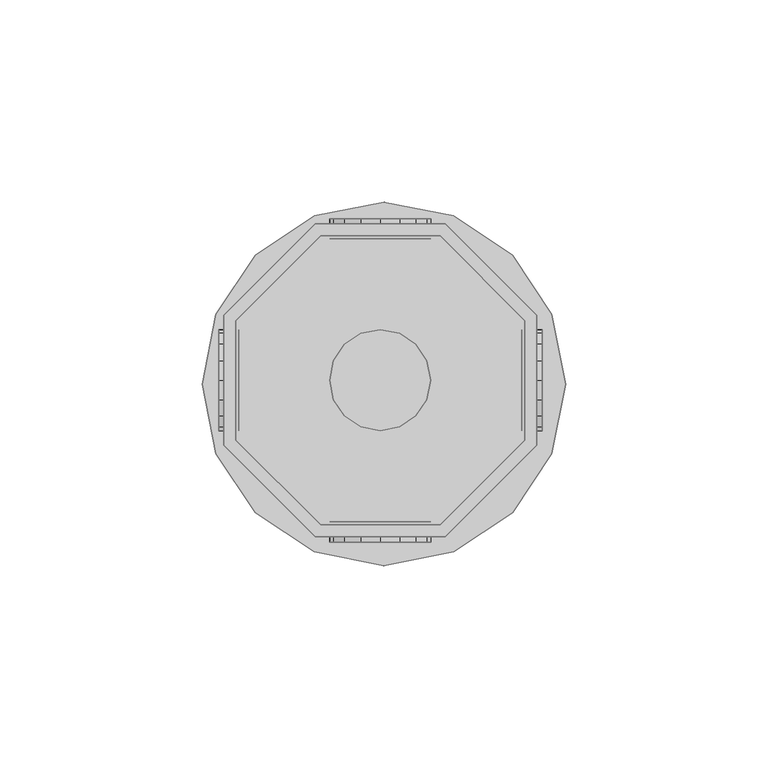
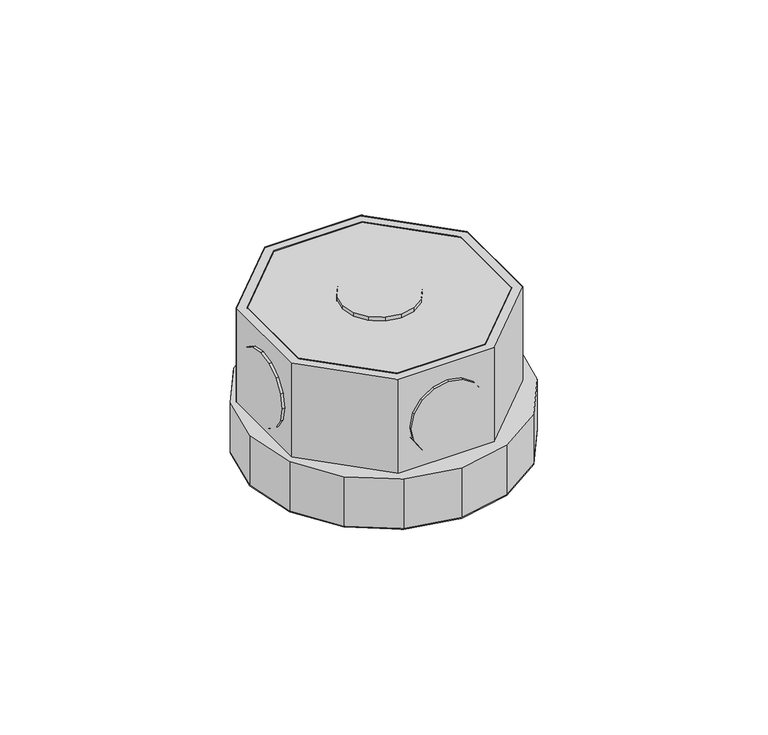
"""IFC4 building model written with IfcOpenShell, lengths in millimetres: light fixture geometry,  213642 :  213642."""

from ifc_helpers import new_model, si_unit, origin, place, context, project, spatial, triangles, source, transform, mapped, element, save


def light_fixture_ebff3914(model_context):
    return source(origin(), model_context, "Body", "Tessellation", [
        triangles([(5265.0001419, 19132.999585, 2924.5999741), (5235.4002045, 19132.999585, 2975.400071), (5235.4002045, 19132.999585, 2924.5999741), (5265.0001419, 19132.999585, 2975.400071), (5266.2000687, 19058.4994812, 2924.5999741), (5234.1002838, 19058.4994812, 2975.400071), (5234.1002838, 19058.4994812, 2924.5999741), (5266.2000687, 19058.4994812, 2975.400071), (5214.3997421, 19111.999704, 2975.400071), (5214.3997421, 19111.999704, 2924.5999741), (5288.8998459, 19081.2004211, 2924.5999741), (5288.8998459, 19081.2004211, 2975.400071), (5214.3997421, 19082.4003479, 2975.400071), (5214.3997421, 19082.4003479, 2924.5999741), (5288.8998459, 19113.2996246, 2924.5999741), (5288.8998459, 19113.2996246, 2975.400071), (5235.4002045, 19061.5004608, 2975.400071), (5235.4002045, 19061.5004608, 2924.5999741), (5266.2000687, 19136.0005646, 2924.5999741), (5266.2000687, 19136.0005646, 2975.400071), (5265.0001419, 19061.5004608, 2924.5999741), (5265.0001419, 19061.5004608, 2975.400071), (5234.1002838, 19136.0005646, 2975.400071), (5234.1002838, 19136.0005646, 2924.5999741), (5285.900029, 19082.4003479, 2924.5999741), (5285.900029, 19082.4003479, 2975.400071), (5211.3999252, 19113.2996246, 2975.400071), (5211.3999252, 19113.2996246, 2924.5999741), (5211.3999252, 19081.2004211, 2975.400071), (5285.900029, 19111.999704, 2975.400071), (5285.900029, 19111.999704, 2924.5999741), (5211.3999252, 19081.2004211, 2924.5999741), (5214.3997421, 19082.4003479, 2972.3999634), (5235.4002045, 19061.5004608, 2972.3999634), (5265.0001419, 19061.5004608, 2972.3999634), (5285.900029, 19082.4003479, 2972.3999634), (5285.900029, 19111.999704, 2972.3999634), (5265.0001419, 19132.999585, 2972.3999634), (5235.4002045, 19132.999585, 2972.3999634), (5214.3997421, 19111.999704, 2972.3999634), (5211.3999252, 19113.2996246, 2942.4000504), (5234.1002838, 19136.0005646, 2942.4000504), (5266.2000687, 19136.0005646, 2942.4000504), (5288.8998459, 19113.2996246, 2942.4000504), (5288.8998459, 19081.2004211, 2942.4000504), (5266.2000687, 19058.4994812, 2942.4000504), (5234.1002838, 19058.4994812, 2942.4000504), (5211.3999252, 19081.2004211, 2942.4000504), (5233.7997208, 19054.799707, 2942.4000504), (5209.5000412, 19079.1005493, 2942.4000504), (5219.2000305, 19064.5002777, 2942.4000504), (5206.1002487, 19096.2994995, 2942.4000504), (5209.5000412, 19113.5996063, 2942.4000504), (5219.2000305, 19128.1998779, 2942.4000504), (5233.7997208, 19137.9004486, 2942.4000504), (5251.0998276, 19141.3002411, 2942.4000504), (5268.2999405, 19137.9004486, 2942.4000504), (5292.6002014, 19113.5996063, 2942.4000504), (5282.9002121, 19128.1998779, 2942.4000504), (5251.0998276, 19051.2999207, 2942.4000504), (5268.2999405, 19054.799707, 2942.4000504), (5282.9002121, 19064.5002777, 2942.4000504), (5292.6002014, 19079.1005493, 2942.4000504), (5296.0999878, 19096.2994995, 2942.4000504), (5209.5000412, 19079.1005493, 2924.5999741), (5233.7997208, 19054.799707, 2924.5999741), (5219.2000305, 19064.5002777, 2924.5999741), (5206.1002487, 19096.2994995, 2924.5999741), (5209.5000412, 19113.5996063, 2924.5999741), (5219.2000305, 19128.1998779, 2924.5999741), (5233.7997208, 19137.9004486, 2924.5999741), (5251.0998276, 19141.3002411, 2924.5999741), (5268.2999405, 19137.9004486, 2924.5999741), (5292.6002014, 19113.5996063, 2924.5999741), (5282.9002121, 19128.1998779, 2924.5999741), (5251.0998276, 19051.2999207, 2924.5999741), (5268.2999405, 19054.799707, 2924.5999741), (5282.9002121, 19064.5002777, 2924.5999741), (5292.6002014, 19079.1005493, 2924.5999741), (5296.0999878, 19096.2994995, 2924.5999741), (5238.6000092, 19137.2004913, 2952.6000092), (5245.4001755, 19137.2004913, 2945.9001274), (5241.2998444, 19137.2004913, 2948.5999626), (5237.7000641, 19137.2004913, 2957.4000069), (5250.1998825, 19137.2004913, 2944.8998978), (5238.6000092, 19137.2004913, 2962.2000046), (5255.0001709, 19137.2004913, 2945.9001274), (5241.2998444, 19137.2004913, 2966.2000511), (5258.9999268, 19137.2004913, 2948.5999626), (5245.4001755, 19137.2004913, 2968.8998863), (5261.699762, 19137.2004913, 2952.6000092), (5250.1998825, 19137.2004913, 2969.900116), (5262.7002823, 19137.2004913, 2957.4000069), (5255.0001709, 19137.2004913, 2968.8998863), (5261.699762, 19137.2004913, 2962.2000046), (5258.9999268, 19137.2004913, 2966.2000511), (5245.4001755, 19132.1996338, 2945.9001274), (5238.6000092, 19132.1996338, 2952.6000092), (5241.2998444, 19132.1996338, 2948.5999626), (5250.1998825, 19132.1996338, 2944.8998978), (5237.7000641, 19132.1996338, 2957.4000069), (5255.0001709, 19132.1996338, 2945.9001274), (5238.6000092, 19132.1996338, 2962.2000046), (5258.9999268, 19132.1996338, 2948.5999626), (5241.2998444, 19132.1996338, 2966.2000511), (5245.4001755, 19132.1996338, 2968.8998863), (5261.699762, 19132.1996338, 2952.6000092), (5250.1998825, 19132.1996338, 2969.900116), (5262.7002823, 19132.1996338, 2957.4000069), (5255.0001709, 19132.1996338, 2968.8998863), (5261.699762, 19132.1996338, 2962.2000046), (5258.9999268, 19132.1996338, 2966.2000511), (5238.6000092, 19062.2004181, 2952.6000092), (5245.4001755, 19062.2004181, 2945.9001274), (5241.2998444, 19062.2004181, 2948.5999626), (5237.7000641, 19062.2004181, 2957.4000069), (5250.1998825, 19062.2004181, 2944.8998978), (5238.6000092, 19062.2004181, 2962.2000046), (5255.0001709, 19062.2004181, 2945.9001274), (5241.2998444, 19062.2004181, 2966.2000511), (5258.9999268, 19062.2004181, 2948.5999626), (5245.4001755, 19062.2004181, 2968.8998863), (5261.699762, 19062.2004181, 2952.6000092), (5250.1998825, 19062.2004181, 2969.900116), (5262.7002823, 19062.2004181, 2957.4000069), (5255.0001709, 19062.2004181, 2968.8998863), (5261.699762, 19062.2004181, 2962.2000046), (5258.9999268, 19062.2004181, 2966.2000511), (5245.4001755, 19057.1995605, 2945.9001274), (5238.6000092, 19057.1995605, 2952.6000092), (5241.2998444, 19057.1995605, 2948.5999626), (5250.1998825, 19057.1995605, 2944.8998978), (5237.7000641, 19057.1995605, 2957.4000069), (5255.0001709, 19057.1995605, 2945.9001274), (5238.6000092, 19057.1995605, 2962.2000046), (5258.9999268, 19057.1995605, 2948.5999626), (5241.2998444, 19057.1995605, 2966.2000511), (5245.4001755, 19057.1995605, 2968.8998863), (5261.699762, 19057.1995605, 2952.6000092), (5250.1998825, 19057.1995605, 2969.900116), (5262.7002823, 19057.1995605, 2957.4000069), (5255.0001709, 19057.1995605, 2968.8998863), (5261.699762, 19057.1995605, 2962.2000046), (5258.9999268, 19057.1995605, 2966.2000511), (5215.2002747, 19092.3997375, 2945.9001274), (5215.2002747, 19085.7001465, 2952.6000092), (5215.2002747, 19088.3999817, 2948.5999626), (5215.2002747, 19097.1994446, 2944.8998978), (5215.2002747, 19084.7002075, 2957.4000069), (5215.2002747, 19102.0003143, 2945.9001274), (5215.2002747, 19085.7001465, 2962.2000046), (5215.2002747, 19106.1000641, 2948.5999626), (5215.2002747, 19088.3999817, 2966.2000511), (5215.2002747, 19092.3997375, 2968.8998863), (5215.2002747, 19108.7998993, 2952.6000092), (5215.2002747, 19097.1994446, 2969.900116), (5215.2002747, 19109.6998444, 2957.4000069), (5215.2002747, 19102.0003143, 2968.8998863), (5215.2002747, 19108.7998993, 2962.2000046), (5215.2002747, 19106.1000641, 2966.2000511), (5210.1999985, 19085.7001465, 2952.6000092), (5210.1999985, 19092.3997375, 2945.9001274), (5210.1999985, 19088.3999817, 2948.5999626), (5210.1999985, 19084.7002075, 2957.4000069), (5210.1999985, 19097.1994446, 2944.8998978), (5210.1999985, 19085.7001465, 2962.2000046), (5210.1999985, 19102.0003143, 2945.9001274), (5210.1999985, 19088.3999817, 2966.2000511), (5210.1999985, 19106.1000641, 2948.5999626), (5210.1999985, 19092.3997375, 2968.8998863), (5210.1999985, 19108.7998993, 2952.6000092), (5210.1999985, 19097.1994446, 2969.900116), (5210.1999985, 19109.6998444, 2957.4000069), (5210.1999985, 19102.0003143, 2968.8998863), (5210.1999985, 19108.7998993, 2962.2000046), (5210.1999985, 19106.1000641, 2966.2000511), (5290.1997665, 19092.3997375, 2945.9001274), (5290.1997665, 19085.7001465, 2952.6000092), (5290.1997665, 19088.3999817, 2948.5999626), (5290.1997665, 19097.1994446, 2944.8998978), (5290.1997665, 19084.7002075, 2957.4000069), (5290.1997665, 19102.0003143, 2945.9001274), (5290.1997665, 19085.7001465, 2962.2000046), (5290.1997665, 19106.1000641, 2948.5999626), (5290.1997665, 19088.3999817, 2966.2000511), (5290.1997665, 19092.3997375, 2968.8998863), (5290.1997665, 19108.7998993, 2952.6000092), (5290.1997665, 19097.1994446, 2969.900116), (5290.1997665, 19109.6998444, 2957.4000069), (5290.1997665, 19102.0003143, 2968.8998863), (5290.1997665, 19108.7998993, 2962.2000046), (5290.1997665, 19106.1000641, 2966.2000511), (5285.2000717, 19085.7001465, 2952.6000092), (5285.2000717, 19092.3997375, 2945.9001274), (5285.2000717, 19088.3999817, 2948.5999626), (5285.2000717, 19084.7002075, 2957.4000069), (5285.2000717, 19097.1994446, 2944.8998978), (5285.2000717, 19085.7001465, 2962.2000046), (5285.2000717, 19102.0003143, 2945.9001274), (5285.2000717, 19088.3999817, 2966.2000511), (5285.2000717, 19106.1000641, 2948.5999626), (5285.2000717, 19092.3997375, 2968.8998863), (5285.2000717, 19108.7998993, 2952.6000092), (5285.2000717, 19097.1994446, 2969.900116), (5285.2000717, 19109.6998444, 2957.4000069), (5285.2000717, 19102.0003143, 2968.8998863), (5285.2000717, 19108.7998993, 2962.2000046), (5285.2000717, 19106.1000641, 2966.2000511), (5245.4001755, 19085.7001465, 2976.9999733), (5238.6000092, 19092.3997375, 2976.9999733), (5241.2998444, 19088.3999817, 2976.9999733), (5237.7000641, 19097.1994446, 2976.9999733), (5250.1998825, 19084.7002075, 2976.9999733), (5238.6000092, 19102.0003143, 2976.9999733), (5255.0001709, 19085.7001465, 2976.9999733), (5241.2998444, 19106.1000641, 2976.9999733), (5258.9999268, 19088.3999817, 2976.9999733), (5245.4001755, 19108.7998993, 2976.9999733), (5261.699762, 19092.3997375, 2976.9999733), (5250.1998825, 19109.6998444, 2976.9999733), (5262.7002823, 19097.1994446, 2976.9999733), (5255.0001709, 19108.7998993, 2976.9999733), (5261.699762, 19102.0003143, 2976.9999733), (5258.9999268, 19106.1000641, 2976.9999733), (5238.6000092, 19092.3997375, 2971.9999878), (5245.4001755, 19085.7001465, 2971.9999878), (5241.2998444, 19088.3999817, 2971.9999878), (5237.7000641, 19097.1994446, 2971.9999878), (5250.1998825, 19084.7002075, 2971.9999878), (5238.6000092, 19102.0003143, 2971.9999878), (5255.0001709, 19085.7001465, 2971.9999878), (5241.2998444, 19106.1000641, 2971.9999878), (5258.9999268, 19088.3999817, 2971.9999878), (5245.4001755, 19108.7998993, 2971.9999878), (5261.699762, 19092.3997375, 2971.9999878), (5250.1998825, 19109.6998444, 2971.9999878), (5262.7002823, 19097.1994446, 2971.9999878), (5255.0001709, 19108.7998993, 2971.9999878), (5261.699762, 19102.0003143, 2971.9999878), (5258.9999268, 19106.1000641, 2971.9999878)], [[1, 2, 3], [2, 1, 4], [5, 6, 7], [6, 5, 8], [3, 9, 10], [9, 3, 2], [11, 8, 5], [8, 11, 12], [10, 13, 14], [13, 10, 9], [15, 12, 11], [12, 15, 16], [14, 17, 18], [17, 14, 13], [19, 16, 15], [16, 19, 20], [17, 21, 18], [21, 17, 22], [23, 19, 24], [19, 23, 20], [22, 25, 21], [25, 22, 26], [27, 24, 28], [24, 27, 23], [6, 13, 29], [29, 13, 27], [27, 13, 9], [27, 9, 23], [23, 9, 2], [23, 2, 4], [23, 4, 20], [20, 4, 30], [8, 17, 6], [6, 17, 13], [17, 8, 22], [12, 22, 8], [22, 12, 26], [30, 26, 12], [16, 30, 12], [20, 30, 16], [30, 1, 31], [1, 30, 4], [6, 32, 7], [32, 6, 29], [32, 14, 7], [28, 14, 32], [14, 28, 10], [24, 10, 28], [10, 24, 3], [1, 3, 24], [19, 1, 24], [31, 1, 19], [7, 18, 5], [14, 18, 7], [5, 18, 21], [5, 21, 11], [11, 21, 25], [11, 25, 31], [11, 31, 15], [15, 31, 19], [26, 31, 25], [31, 26, 30], [29, 28, 32], [28, 29, 27], [17, 33, 34], [33, 17, 13], [35, 17, 34], [17, 35, 22], [36, 22, 35], [22, 36, 26], [37, 26, 36], [26, 37, 30], [38, 30, 37], [30, 38, 4], [2, 38, 39], [38, 2, 4], [17, 9, 13], [9, 17, 22], [9, 22, 2], [2, 22, 26], [2, 26, 4], [4, 26, 30], [13, 40, 33], [40, 13, 9], [40, 34, 33], [35, 34, 40], [35, 40, 39], [35, 39, 36], [36, 39, 38], [36, 38, 37], [9, 39, 40], [39, 9, 2], [24, 41, 28], [41, 24, 42], [19, 42, 24], [42, 19, 43], [44, 19, 15], [19, 44, 43], [45, 15, 11], [15, 45, 44], [46, 11, 5], [11, 46, 45], [47, 5, 7], [5, 47, 46], [32, 47, 7], [47, 32, 48], [28, 48, 32], [48, 28, 41], [49, 50, 51], [48, 50, 49], [50, 48, 52], [41, 52, 48], [52, 41, 53], [53, 41, 54], [42, 54, 41], [54, 42, 55], [55, 42, 43], [55, 43, 56], [56, 43, 57], [57, 43, 44], [57, 44, 58], [57, 58, 59], [47, 49, 60], [49, 47, 48], [47, 60, 46], [61, 46, 60], [46, 61, 62], [46, 62, 45], [45, 62, 63], [44, 45, 63], [44, 63, 64], [44, 64, 58], [65, 66, 67], [66, 65, 32], [68, 32, 65], [32, 68, 28], [28, 68, 69], [70, 28, 69], [28, 70, 24], [71, 24, 70], [19, 24, 71], [19, 71, 72], [73, 19, 72], [19, 73, 15], [74, 15, 73], [74, 73, 75], [76, 66, 7], [32, 7, 66], [5, 76, 7], [76, 5, 77], [77, 5, 78], [11, 78, 5], [78, 11, 79], [79, 11, 15], [79, 15, 80], [80, 15, 74], [57, 75, 73], [75, 57, 59], [56, 73, 72], [73, 56, 57], [55, 72, 71], [72, 55, 56], [54, 71, 70], [71, 54, 55], [53, 70, 69], [70, 53, 54], [52, 69, 68], [69, 52, 53], [50, 68, 65], [68, 50, 52], [51, 65, 67], [65, 51, 50], [66, 51, 67], [51, 66, 49], [76, 49, 66], [49, 76, 60], [77, 60, 76], [60, 77, 61], [78, 61, 77], [61, 78, 62], [79, 62, 78], [62, 79, 63], [80, 63, 79], [63, 80, 64], [75, 58, 74], [58, 75, 59], [74, 64, 80], [64, 74, 58], [81, 82, 83], [82, 81, 84], [85, 82, 84], [85, 84, 86], [87, 85, 86], [87, 86, 88], [87, 88, 89], [89, 88, 90], [89, 90, 91], [91, 90, 92], [91, 92, 93], [93, 92, 94], [93, 94, 95], [95, 94, 96], [97, 98, 99], [98, 97, 100], [101, 98, 100], [101, 100, 102], [103, 101, 102], [103, 102, 104], [103, 104, 105], [105, 104, 106], [106, 104, 107], [106, 107, 108], [108, 107, 109], [108, 109, 110], [110, 109, 111], [110, 111, 112], [87, 104, 102], [104, 87, 89], [85, 102, 100], [102, 85, 87], [82, 100, 97], [100, 82, 85], [83, 97, 99], [97, 83, 82], [98, 83, 99], [83, 98, 81], [101, 81, 98], [81, 101, 84], [103, 84, 101], [84, 103, 86], [105, 86, 103], [86, 105, 88], [106, 88, 105], [88, 106, 90], [108, 90, 106], [90, 108, 92], [110, 92, 108], [92, 110, 94], [112, 94, 110], [94, 112, 96], [95, 112, 111], [112, 95, 96], [93, 111, 109], [111, 93, 95], [89, 107, 104], [107, 89, 91], [91, 109, 107], [109, 91, 93], [113, 114, 115], [114, 113, 116], [117, 114, 116], [117, 116, 118], [119, 117, 118], [119, 118, 120], [119, 120, 121], [121, 120, 122], [121, 122, 123], [123, 122, 124], [123, 124, 125], [125, 124, 126], [125, 126, 127], [127, 126, 128], [129, 130, 131], [130, 129, 132], [133, 130, 132], [133, 132, 134], [135, 133, 134], [135, 134, 136], [135, 136, 137], [137, 136, 138], [138, 136, 139], [138, 139, 140], [140, 139, 141], [140, 141, 142], [142, 141, 143], [142, 143, 144], [119, 136, 134], [136, 119, 121], [117, 134, 132], [134, 117, 119], [114, 132, 129], [132, 114, 117], [115, 129, 131], [129, 115, 114], [130, 115, 131], [115, 130, 113], [133, 113, 130], [113, 133, 116], [135, 116, 133], [116, 135, 118], [137, 118, 135], [118, 137, 120], [138, 120, 137], [120, 138, 122], [140, 122, 138], [122, 140, 124], [142, 124, 140], [124, 142, 126], [144, 126, 142], [126, 144, 128], [127, 144, 143], [144, 127, 128], [125, 143, 141], [143, 125, 127], [121, 139, 136], [139, 121, 123], [123, 141, 139], [141, 123, 125], [145, 146, 147], [146, 145, 148], [149, 146, 148], [149, 148, 150], [151, 149, 150], [151, 150, 152], [151, 152, 153], [153, 152, 154], [154, 152, 155], [154, 155, 156], [156, 155, 157], [156, 157, 158], [158, 157, 159], [158, 159, 160], [161, 162, 163], [162, 161, 164], [165, 162, 164], [165, 164, 166], [167, 165, 166], [167, 166, 168], [169, 167, 168], [169, 168, 170], [169, 170, 171], [171, 170, 172], [171, 172, 173], [173, 172, 174], [173, 174, 175], [175, 174, 176], [158, 176, 174], [176, 158, 160], [156, 174, 172], [174, 156, 158], [154, 172, 170], [172, 154, 156], [153, 170, 168], [170, 153, 154], [151, 168, 166], [168, 151, 153], [149, 166, 164], [166, 149, 151], [146, 164, 161], [164, 146, 149], [147, 161, 163], [161, 147, 146], [162, 147, 163], [147, 162, 145], [165, 145, 162], [145, 165, 148], [167, 148, 165], [148, 167, 150], [169, 150, 167], [150, 169, 152], [171, 152, 169], [152, 171, 155], [173, 155, 171], [155, 173, 157], [176, 159, 175], [159, 176, 160], [175, 157, 173], [157, 175, 159], [177, 178, 179], [178, 177, 180], [181, 178, 180], [181, 180, 182], [183, 181, 182], [183, 182, 184], [183, 184, 185], [185, 184, 186], [186, 184, 187], [186, 187, 188], [188, 187, 189], [188, 189, 190], [190, 189, 191], [190, 191, 192], [193, 194, 195], [194, 193, 196], [197, 194, 196], [197, 196, 198], [199, 197, 198], [199, 198, 200], [201, 199, 200], [201, 200, 202], [201, 202, 203], [203, 202, 204], [203, 204, 205], [205, 204, 206], [205, 206, 207], [207, 206, 208], [190, 208, 206], [208, 190, 192], [188, 206, 204], [206, 188, 190], [186, 204, 202], [204, 186, 188], [185, 202, 200], [202, 185, 186], [183, 200, 198], [200, 183, 185], [181, 198, 196], [198, 181, 183], [178, 196, 193], [196, 178, 181], [179, 193, 195], [193, 179, 178], [194, 179, 195], [179, 194, 177], [197, 177, 194], [177, 197, 180], [199, 180, 197], [180, 199, 182], [201, 182, 199], [182, 201, 184], [203, 184, 201], [184, 203, 187], [205, 187, 203], [187, 205, 189], [208, 191, 207], [191, 208, 192], [207, 189, 205], [189, 207, 191], [209, 210, 211], [212, 210, 209], [212, 209, 213], [214, 212, 213], [214, 213, 215], [216, 214, 215], [216, 215, 217], [216, 217, 218], [218, 217, 219], [218, 219, 220], [220, 219, 221], [220, 221, 222], [222, 221, 223], [222, 223, 224], [225, 226, 227], [226, 225, 228], [229, 226, 228], [229, 228, 230], [231, 229, 230], [231, 230, 232], [231, 232, 233], [233, 232, 234], [233, 234, 235], [235, 234, 236], [235, 236, 237], [237, 236, 238], [237, 238, 239], [239, 238, 240], [222, 240, 238], [240, 222, 224], [220, 238, 236], [238, 220, 222], [218, 236, 234], [236, 218, 220], [216, 234, 232], [234, 216, 218], [214, 232, 230], [232, 214, 216], [212, 230, 228], [230, 212, 214], [210, 228, 225], [228, 210, 212], [211, 225, 227], [225, 211, 210], [226, 211, 227], [211, 226, 209], [229, 209, 226], [209, 229, 213], [231, 213, 229], [213, 231, 215], [233, 215, 231], [215, 233, 217], [235, 217, 233], [217, 235, 219], [237, 219, 235], [219, 237, 221], [240, 223, 239], [223, 240, 224], [239, 221, 237], [221, 239, 223]], closed=False),
    ])


if __name__ == "__main__":
    model = new_model("IFC4")
    model_context = context("Model", 3, world=origin())
    ifc_project = project(units=[si_unit("LENGTHUNIT", "METRE", prefix="MILLI")], contexts=[model_context])
    site = spatial("IfcSite", under=ifc_project)
    building = spatial("IfcBuilding", under=site)
    placement = place(None, origin())
    light_fixture_shape = light_fixture_ebff3914(model_context)
    element("IfcLightFixture", 1, ObjectType=" 213642 :  213642", at=placement, inside=building, context=model_context, shape_type="MappedRepresentation", body=[
        mapped(light_fixture_shape, transform((0.0, 0.0, 0.0), x_axis=(1.0, 0.0, 0.0), y_axis=(0.0, 1.0, 0.0), z_axis=(0.0, 0.0, 1.0))),
    ])
    save(model, "model.ifc")
